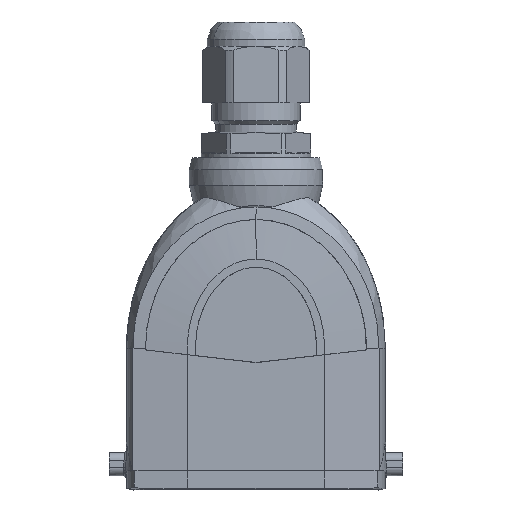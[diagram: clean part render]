
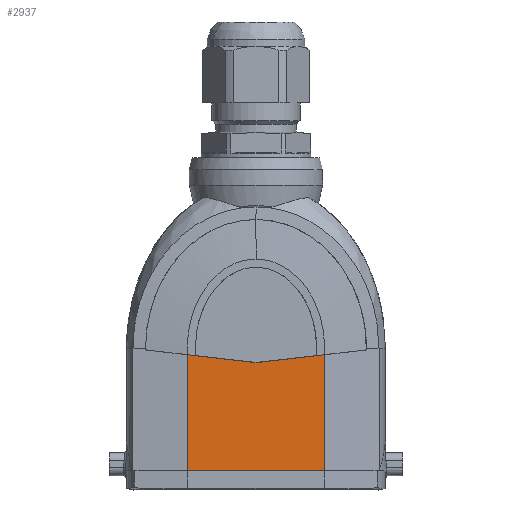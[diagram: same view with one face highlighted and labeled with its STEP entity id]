
A CAD part, front view. The second image highlights one B-rep face of the part: STEP entity #2937.
In plain terms, the highlighted planar face has unit normal (0, -1, 0).
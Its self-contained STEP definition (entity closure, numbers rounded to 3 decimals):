
#2937=ADVANCED_FACE('',(#4142),#3706,.F.);
#3706=PLANE('',#16310);
#4142=FACE_OUTER_BOUND('',#4892,.T.);
#4892=EDGE_LOOP('',(#6153,#6154,#6155,#6156,#6157));
#6153=ORIENTED_EDGE('',*,*,#11805,.T.);
#6154=ORIENTED_EDGE('',*,*,#11809,.T.);
#6155=ORIENTED_EDGE('',*,*,#11810,.T.);
#6156=ORIENTED_EDGE('',*,*,#11811,.T.);
#6157=ORIENTED_EDGE('',*,*,#11812,.T.);
#10336=VERTEX_POINT('',#23683);
#10337=VERTEX_POINT('',#23685);
#10340=VERTEX_POINT('',#23699);
#10341=VERTEX_POINT('',#23701);
#10342=VERTEX_POINT('',#23703);
#11805=EDGE_CURVE('',#10337,#10336,#13756,.T.);
#11809=EDGE_CURVE('',#10336,#10340,#13758,.T.);
#11810=EDGE_CURVE('',#10340,#10341,#13759,.T.);
#11811=EDGE_CURVE('',#10341,#10342,#13760,.T.);
#11812=EDGE_CURVE('',#10342,#10337,#13761,.T.);
#13756=LINE('',#23684,#14947);
#13758=LINE('',#23698,#14949);
#13759=LINE('',#23700,#14950);
#13760=LINE('',#23702,#14951);
#13761=LINE('',#23704,#14952);
#14947=VECTOR('',#17778,1.);
#14949=VECTOR('',#17782,1.);
#14950=VECTOR('',#17783,1.);
#14951=VECTOR('',#17784,1.);
#14952=VECTOR('',#17785,1.);
#16310=AXIS2_PLACEMENT_3D('',#23705,#17786,#17787);
#17778=DIRECTION('',(0.,0.,-1.));
#17782=DIRECTION('',(1.,0.,0.));
#17783=DIRECTION('',(0.,0.,1.));
#17784=DIRECTION('',(-0.994,0.,-0.113));
#17785=DIRECTION('',(-0.994,0.,0.113));
#17786=DIRECTION('',(0.,1.,0.));
#17787=DIRECTION('',(-1.,0.,0.));
#23683=CARTESIAN_POINT('',(-17.,-16.,-10.3));
#23684=CARTESIAN_POINT('',(-17.,-16.,19.9));
#23685=CARTESIAN_POINT('',(-17.,-16.,18.373));
#23698=CARTESIAN_POINT('',(-17.,-16.,-10.3));
#23699=CARTESIAN_POINT('',(17.,-16.,-10.3));
#23700=CARTESIAN_POINT('',(17.,-16.,19.9));
#23701=CARTESIAN_POINT('',(17.,-16.,18.373));
#23702=CARTESIAN_POINT('',(17.172,-16.,18.393));
#23703=CARTESIAN_POINT('',(0.,-16.,16.436));
#23704=CARTESIAN_POINT('',(-17.172,-16.,18.393));
#23705=CARTESIAN_POINT('',(-17.,-16.,19.9));
